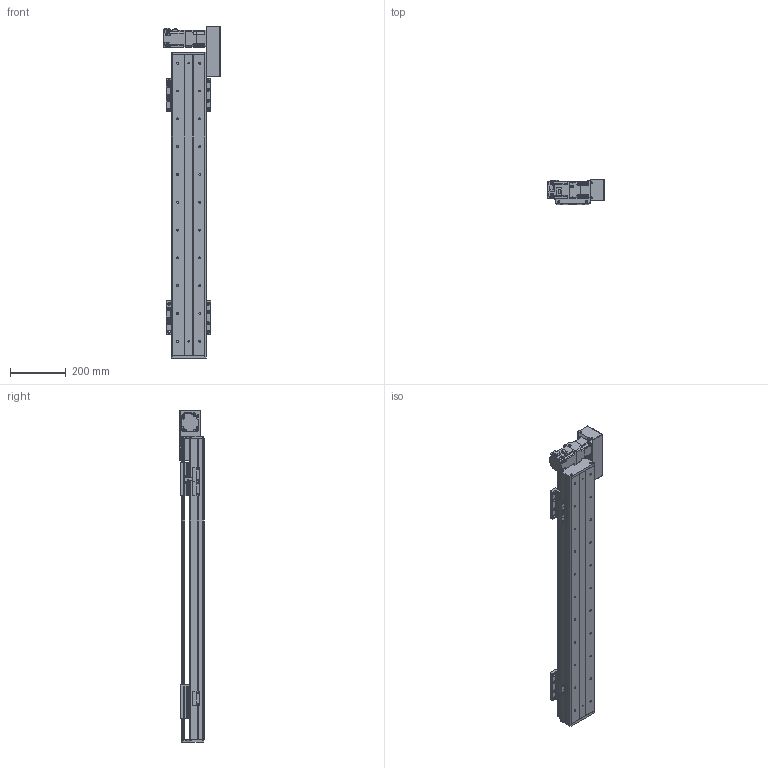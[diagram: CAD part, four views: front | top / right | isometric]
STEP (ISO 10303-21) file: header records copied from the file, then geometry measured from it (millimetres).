
FILE_DESCRIPTION(/* description */ (''),/* implementation_level */ '2;1');
FILE_NAME(/* name */ 'C:\Users\PC\Desktop\3D도면\STEP\STEP\DSB125-R2G-W0800-L.stp',/* time_stamp */ '2018-06-13T15:57:18+09:00',/* author */ ('PC'),/* organization */ (''),/* preprocessor_version */ 'ST-DEVELOPER v16.5',/* originating_system */ 'Autodesk Inventor 2017',/* authorisation */ '');
FILE_SCHEMA (('AUTOMOTIVE_DESIGN { 1 0 10303 214 3 1 1 }'));
Length unit declared in the file: millimetre
Products named in the file (12): DSB125-L2G-W0800-R_MIR; DSB125-BASE_MIR; DSB125-FRONT COVER_MIR; DSB125-REAR COVER_MIR; DSB125-UP COVER_MIR; DSB125-TABLE(MSB15S)_MIR; hg-kr23__MIR; ab0601-p0401200402_MIR; 13-BELT COVER_MIR; DSR125-SENSOR DOG_MIR; pm-y65_step_MIR; SENSOR BRACKET(EE-SX674A)_MIR
Assembly tree (16 placements, depth 2):
  DSB125-L2G-W0800-R_MIR
    DSB125-BASE_MIR
    DSB125-FRONT COVER_MIR
    DSB125-REAR COVER_MIR
    DSB125-UP COVER_MIR
    DSB125-TABLE(MSB15S)_MIR  x2
    hg-kr23__MIR
    ab0601-p0401200402_MIR
    13-BELT COVER_MIR
    DSR125-SENSOR DOG_MIR
    pm-y65_step_MIR  x3
    SENSOR BRACKET(EE-SX674A)_MIR  x3
Bounding box: 202.1 x 88 x 1194 mm (x, y, z)
Volume: 4258173.1 mm3; surface area: 1227737.1 mm2
Topology: 17 solids, 17 shells, 1655 faces, 4490 edges, 2960 vertices
Faces by surface type: plane 903, cylinder 628, cone 112, sphere 8, torus 4
Full cylindrical faces by diameter (mm): 2.459 x20, 3.242 x16, 3.5 x6, 4 x1, 4.134 x16, 4.2 x4, 4.3 x1, 4.5 x50, 4.917 x20, 5 x22, 5.3 x1, 5.5 x4, 5.6 x8, 5.8 x4, 5.9 x8, 6 x4, 6.6 x22, 6.647 x22, 7.5 x32, 8.5 x8, 8.7 x1, 11 x22, 14 x1, 16 x2, 17 x1, 20 x1, 47 x1, 50 x3
Entity records: 35885 total; most frequent: CARTESIAN_POINT 6471, DIRECTION 6090, ORIENTED_EDGE 5466, EDGE_CURVE 2733, AXIS2_PLACEMENT_3D 2233, VERTEX_POINT 1942, EDGE_LOOP 1661, LINE 1624
